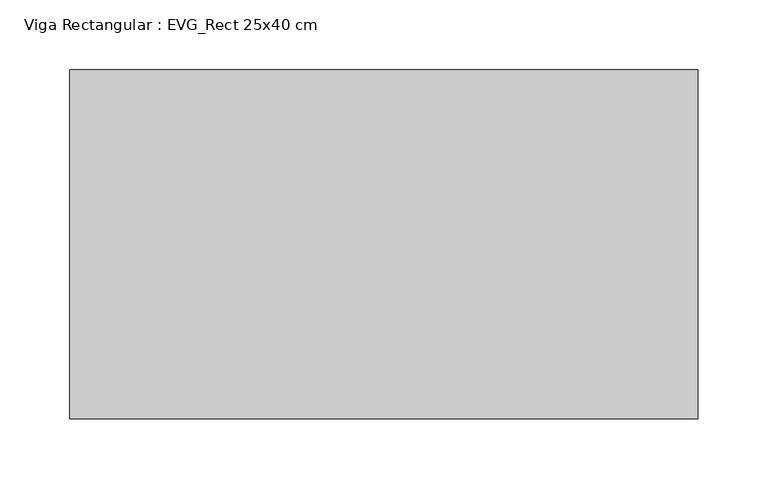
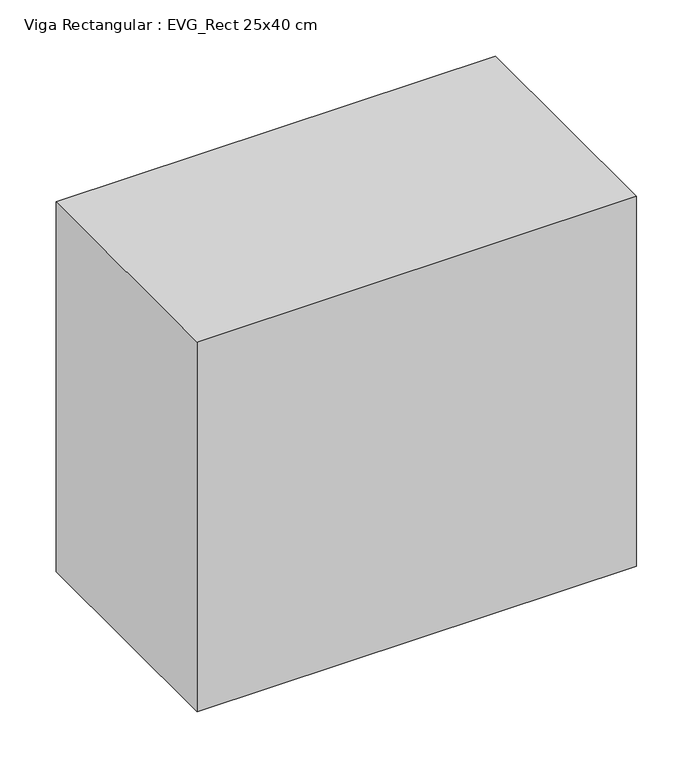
"""IFC4 building model written with IfcOpenShell, lengths in millimetres: beam geometry, Viga Rectangular : EVG_Rect 25x40 cm."""

from ifc_helpers import new_model, si_unit, frame, origin, place, context, project, spatial, polyline, outline, extrude, source, transform, mapped, element, save


def viga_rectangular_evg_rect_25x40_cm_400539a3(model_context):
    return source(origin(), model_context, "Body", "SweptSolid", [
        extrude(outline(polyline([(125.0, 125.0), (125.0, -125.0), (-325.0, -125.0), (-325.0, 125.0), (125.0, 125.0)])), frame((0.0, 0.0, -400.0), z_axis=(0.0, 0.0, 1.0), x_axis=(1.0, 0.0, 0.0)), (0.0, 0.0, 1.0), 400.0),
    ])


if __name__ == "__main__":
    model = new_model("IFC4")
    model_context = context("Model", 3, world=origin())
    ifc_project = project(units=[si_unit("LENGTHUNIT", "METRE", prefix="MILLI")], contexts=[model_context])
    site = spatial("IfcSite", under=ifc_project)
    building = spatial("IfcBuilding", under=site)
    placement = place(None, origin())
    viga_rectangular_evg_rect_25x40_cm_shape = viga_rectangular_evg_rect_25x40_cm_400539a3(model_context)
    element("IfcBeam", 1, ObjectType="Viga Rectangular : EVG_Rect 25x40 cm", at=placement, inside=building, context=model_context, shape_type="MappedRepresentation", body=[
        mapped(viga_rectangular_evg_rect_25x40_cm_shape, transform((0.0, 0.0, 0.0), x_axis=(1.0, 0.0, 0.0), y_axis=(0.0, 1.0, 0.0), z_axis=(0.0, 0.0, 1.0))),
    ])
    save(model, "model.ifc")
